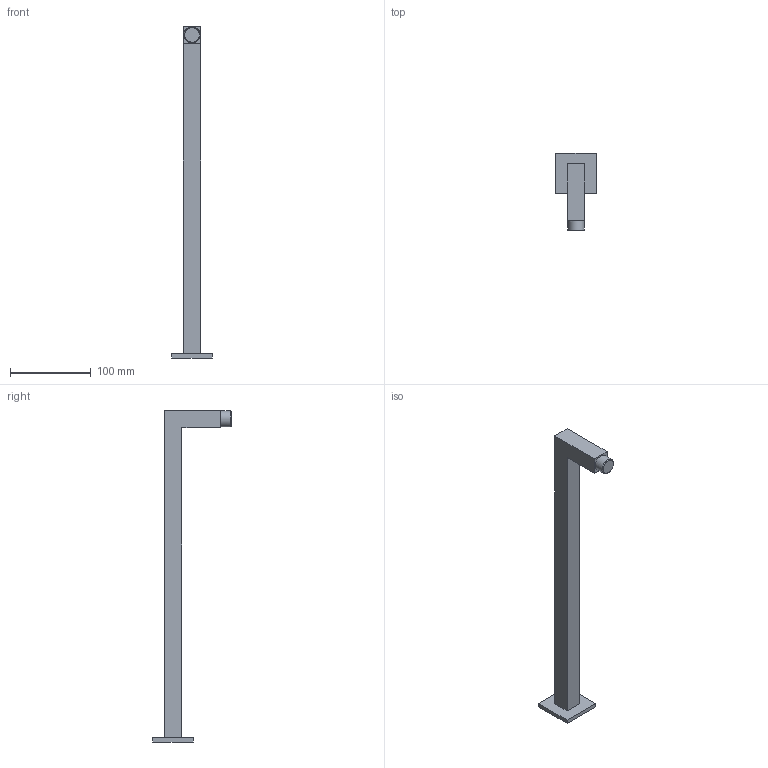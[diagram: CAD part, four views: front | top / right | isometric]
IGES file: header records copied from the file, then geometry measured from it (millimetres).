
Global section: file name: 75B008; native system: Autodesk Inventor 2017; preprocessor: unknown; author: CIANI; date: 20220219.080841; units: millimetre
Bounding box: 50 x 97 x 411 mm (x, y, z)
Volume: 236270.1 mm3; surface area: 47262.6 mm2
Topology: 1 solids, 1 shells, 21 faces, 47 edges, 31 vertices
Faces by surface type: bspline 21
